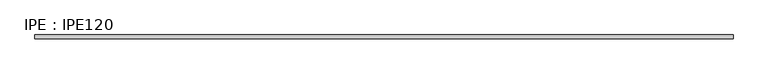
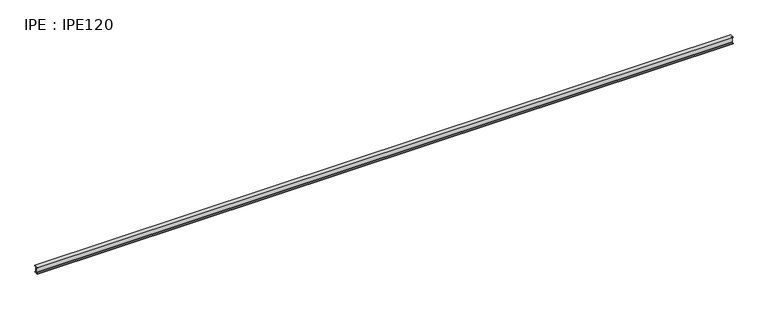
"""IFC4 building model written with IfcOpenShell, lengths in millimetres: beam geometry, IPE : IPE120."""

from ifc_helpers import new_model, si_unit, point, frame, frame_2d, origin, place, context, project, spatial, polyline, circle_curve, trimmed, segment, composite_curve, outline, extrude, source, transform, mapped, element, save


def ipe_ipe120_cd6d0a2a(model_context):
    return source(origin(), model_context, "Body", "SweptSolid", [
        extrude(outline(composite_curve([segment(polyline([(32.0, -53.7), (32.0, -60.0), (-32.0, -60.0), (-32.0, -53.7), (-9.2, -53.7)]), True, "CONTINUOUS"), segment(trimmed(circle_curve(frame_2d((-9.2, -46.7)), 7.0), [point((-9.2, -53.7))], [point((-2.2, -46.7))], True, "CARTESIAN"), True, "CONTINUOUS"), segment(polyline([(-2.2, -46.7), (-2.2, 46.7)]), True, "CONTINUOUS"), segment(trimmed(circle_curve(frame_2d((-9.2, 46.7)), 7.0), [point((-2.2, 46.7))], [point((-9.2, 53.7))], True, "CARTESIAN"), True, "CONTINUOUS"), segment(polyline([(-9.2, 53.7), (-32.0, 53.7), (-32.0, 60.0), (32.0, 60.0), (32.0, 53.7), (9.2, 53.7)]), True, "CONTINUOUS"), segment(trimmed(circle_curve(frame_2d((9.2, 46.7)), 7.0), [point((9.2, 53.7))], [point((2.2, 46.7))], True, "CARTESIAN"), True, "CONTINUOUS"), segment(polyline([(2.2, 46.7), (2.2, -46.7)]), True, "CONTINUOUS"), segment(trimmed(circle_curve(frame_2d((9.2, -46.7)), 7.0), [point((2.2, -46.7))], [point((9.2, -53.7))], True, "CARTESIAN"), True, "CONTINUOUS"), segment(polyline([(9.2, -53.7), (32.0, -53.7)]), True, "CONTINUOUS")], self_intersect=False)), frame((-6000.0, 0.0, 0.0), z_axis=(1.0, 0.0, 0.0), x_axis=(0.0, 1.0, 0.0)), (0.0, 0.0, 1.0), 12097.5),
    ])


if __name__ == "__main__":
    model = new_model("IFC4")
    model_context = context("Model", 3, world=origin())
    ifc_project = project(units=[si_unit("LENGTHUNIT", "METRE", prefix="MILLI")], contexts=[model_context])
    site = spatial("IfcSite", under=ifc_project)
    building = spatial("IfcBuilding", under=site)
    placement = place(None, origin())
    ipe_ipe120_shape = ipe_ipe120_cd6d0a2a(model_context)
    element("IfcBeam", 1, ObjectType="IPE : IPE120", at=placement, inside=building, context=model_context, shape_type="MappedRepresentation", body=[
        mapped(ipe_ipe120_shape, transform((0.0, 0.0, 0.0), x_axis=(1.0, 0.0, 0.0), y_axis=(0.0, 1.0, 0.0), z_axis=(0.0, 0.0, 1.0))),
    ])
    save(model, "model.ifc")
